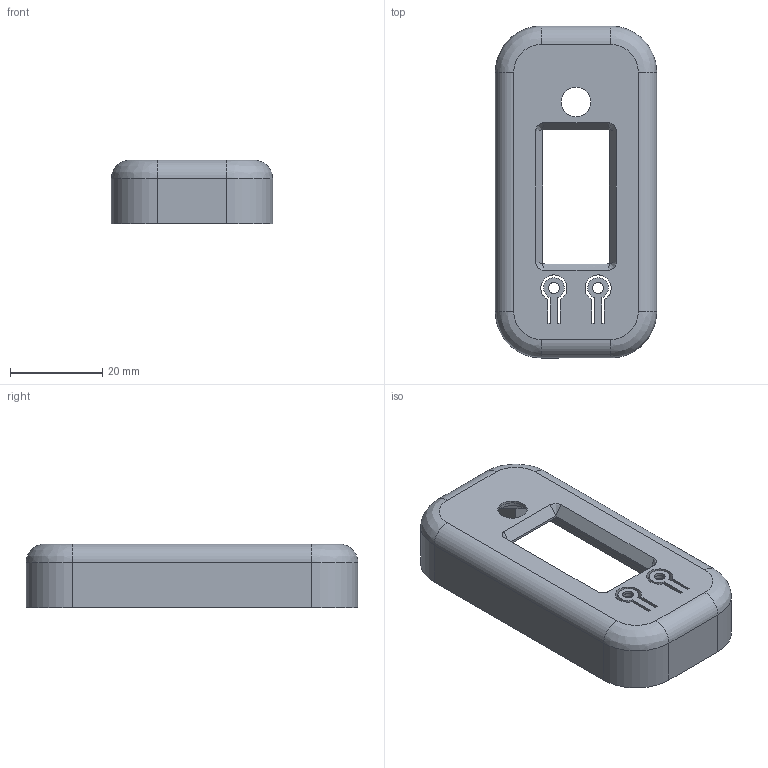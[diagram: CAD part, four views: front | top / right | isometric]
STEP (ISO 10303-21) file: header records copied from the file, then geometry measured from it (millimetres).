
FILE_DESCRIPTION(/* description */ (''),/* implementation_level */ '2;1');
FILE_NAME(/* name */ 'habit_tracker_cover-top',/* time_stamp */ '2026-03-16T12:43:06+01:00',/* author */ (''),/* organization */ (''),/* preprocessor_version */ 'ST-DEVELOPER v19.2',/* originating_system */ 'Rhino 8.0',/* authorisation */ '');
FILE_SCHEMA (('CONFIG_CONTROL_DESIGN'));
Length unit declared in the file: millimetre
Products named in the file (1): Document
Bounding box: 35 x 72 x 13.8 mm (x, y, z)
Volume: 9613.9 mm3; surface area: 9150.7 mm2
Topology: 1 solids, 1 shells, 170 faces, 438 edges, 278 vertices
Faces by surface type: plane 92, cylinder 51, bspline 27
Full cylindrical faces by diameter (mm): 2.4 x4, 3 x4, 3.95 x4, 4.5 x4, 8.028 x1
Entity records: 5543 total; most frequent: CARTESIAN_POINT 2009, ORIENTED_EDGE 868, EDGE_CURVE 434, DIRECTION 387, B_SPLINE_CURVE_WITH_KNOTS 296, VERTEX_POINT 278, AXIS2_PLACEMENT_3D 265, EDGE_LOOP 194
